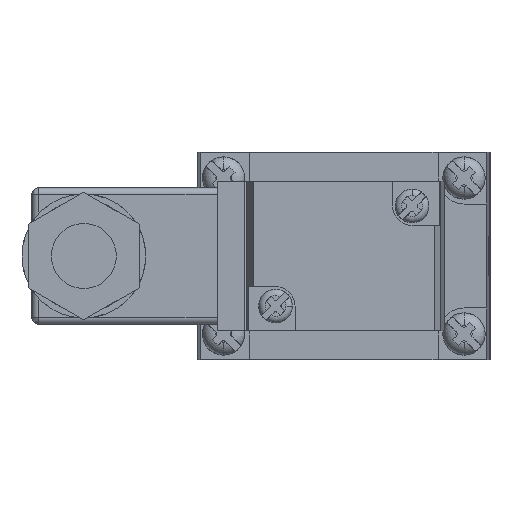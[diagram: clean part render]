
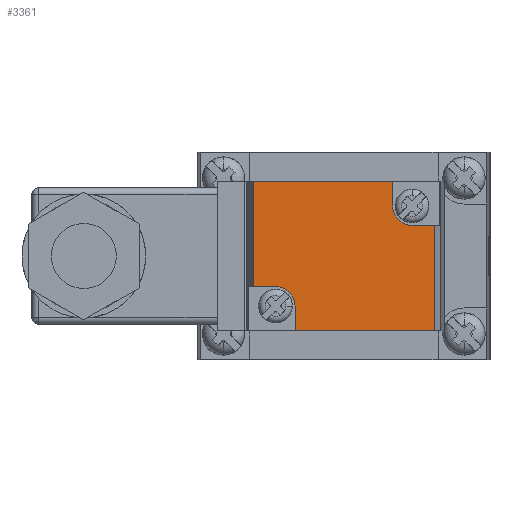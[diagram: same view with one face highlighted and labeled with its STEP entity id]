
A CAD part, left-side view. The second image highlights one B-rep face of the part: STEP entity #3361.
In plain terms, the highlighted planar face has unit normal (-1, 0, 0).
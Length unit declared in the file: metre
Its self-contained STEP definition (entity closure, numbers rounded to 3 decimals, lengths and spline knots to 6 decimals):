
#196 = CARTESIAN_POINT ( 'NONE',  ( -0.1123, 0.012, 0.0077 ) ) ;
#236 = CARTESIAN_POINT ( 'NONE',  ( -0.1123, 0.033, -0.0077 ) ) ;
#923 = VERTEX_POINT ( 'NONE', #996 ) ;
#950 = CARTESIAN_POINT ( 'NONE',  ( -0.1123, 0.022499, -0.0115 ) ) ;
#996 = CARTESIAN_POINT ( 'NONE',  ( -0.1123, 0.008598, -0.0115 ) ) ;
#1336 = EDGE_CURVE ( 'NONE', #9029, #6498, #3055, .T. ) ;
#2570 = CARTESIAN_POINT ( 'NONE',  ( -0.1123, 0.008598, 0.0115 ) ) ;
#2625 = DIRECTION ( 'NONE',  ( 0., -1., 0. ) ) ;
#2661 = DIRECTION ( 'NONE',  ( 0., -1., 0. ) ) ;
#2884 = CARTESIAN_POINT ( 'NONE',  ( -0.1123, 0.03, 0. ) ) ;
#3055 = LINE ( 'NONE', #2884, #27784 ) ;
#3164 = CARTESIAN_POINT ( 'NONE',  ( -0.1123, 0.015, 0.0096 ) ) ;
#3361 = ADVANCED_FACE ( 'NONE', ( #19429 ), #16901, .T. ) ;
#3374 = DIRECTION ( 'NONE',  ( 0., -1., 0. ) ) ;
#3589 = VERTEX_POINT ( 'NONE', #27375 ) ;
#4542 = EDGE_LOOP ( 'NONE', ( #12783, #6746, #20196, #26190, #30550, #18206, #21886, #26415, #22876, #20168 ) ) ;
#4988 = DIRECTION ( 'NONE',  ( -1., 0., 0. ) ) ;
#5126 = EDGE_CURVE ( 'NONE', #18503, #9029, #25742, .T. ) ;
#6147 = EDGE_CURVE ( 'NONE', #8559, #12912, #11790, .T. ) ;
#6498 = VERTEX_POINT ( 'NONE', #23651 ) ;
#6661 = CARTESIAN_POINT ( 'NONE',  ( -0.1123, 0.033, -0.0047 ) ) ;
#6746 = ORIENTED_EDGE ( 'NONE', *, *, #5126, .T. ) ;
#7495 = CARTESIAN_POINT ( 'NONE',  ( -0.1123, 0.0364, 0.0115 ) ) ;
#8114 = CARTESIAN_POINT ( 'NONE',  ( -0.1123, 0.008598, 0. ) ) ;
#8256 = CARTESIAN_POINT ( 'NONE',  ( -0.1123, 0.015, 0.0077 ) ) ;
#8494 = CARTESIAN_POINT ( 'NONE',  ( -0.1123, 0.022499, -0.0047 ) ) ;
#8559 = VERTEX_POINT ( 'NONE', #15012 ) ;
#8830 = VERTEX_POINT ( 'NONE', #25588 ) ;
#8875 = CARTESIAN_POINT ( 'NONE',  ( -0.1123, 0.022499, 0.0047 ) ) ;
#9029 = VERTEX_POINT ( 'NONE', #14481 ) ;
#9637 = EDGE_CURVE ( 'NONE', #8830, #12912, #21740, .T. ) ;
#9697 = LINE ( 'NONE', #26086, #18335 ) ;
#10162 = EDGE_CURVE ( 'NONE', #28785, #10693, #9697, .T. ) ;
#10524 = DIRECTION ( 'NONE',  ( 0., 0., 1. ) ) ;
#10693 = VERTEX_POINT ( 'NONE', #25817 ) ;
#10703 = AXIS2_PLACEMENT_3D ( 'NONE', #196, #16959, #2625 ) ;
#11790 = LINE ( 'NONE', #3164, #23032 ) ;
#12410 = EDGE_CURVE ( 'NONE', #10693, #18503, #25353, .T. ) ;
#12603 = VECTOR ( 'NONE', #30096, 1. ) ;
#12769 = LINE ( 'NONE', #950, #24791 ) ;
#12783 = ORIENTED_EDGE ( 'NONE', *, *, #12410, .T. ) ;
#12912 = VERTEX_POINT ( 'NONE', #8256 ) ;
#14120 = DIRECTION ( 'NONE',  ( 0., 0., -1. ) ) ;
#14242 = DIRECTION ( 'NONE',  ( 0., -1., 0. ) ) ;
#14481 = CARTESIAN_POINT ( 'NONE',  ( -0.1123, 0.03, -0.0077 ) ) ;
#14526 = VECTOR ( 'NONE', #14242, 1. ) ;
#15012 = CARTESIAN_POINT ( 'NONE',  ( -0.1123, 0.015, 0.0115 ) ) ;
#15268 = LINE ( 'NONE', #31010, #14526 ) ;
#15390 = EDGE_CURVE ( 'NONE', #28785, #8559, #15268, .T. ) ;
#15744 = EDGE_CURVE ( 'NONE', #923, #3589, #26897, .T. ) ;
#16901 = PLANE ( 'NONE',  #20219 ) ;
#16959 = DIRECTION ( 'NONE',  ( 1., 0., 0. ) ) ;
#16999 = DIRECTION ( 'NONE',  ( 1., 0., 0. ) ) ;
#17821 = VECTOR ( 'NONE', #23228, 1. ) ;
#18206 = ORIENTED_EDGE ( 'NONE', *, *, #21013, .T. ) ;
#18335 = VECTOR ( 'NONE', #14120, 1. ) ;
#18503 = VERTEX_POINT ( 'NONE', #6661 ) ;
#19429 = FACE_OUTER_BOUND ( 'NONE', #4542, .T. ) ;
#19862 = AXIS2_PLACEMENT_3D ( 'NONE', #236, #16999, #2661 ) ;
#20168 = ORIENTED_EDGE ( 'NONE', *, *, #10162, .T. ) ;
#20196 = ORIENTED_EDGE ( 'NONE', *, *, #1336, .T. ) ;
#20219 = AXIS2_PLACEMENT_3D ( 'NONE', #2570, #4988, #21735 ) ;
#21013 = EDGE_CURVE ( 'NONE', #3589, #8830, #24209, .T. ) ;
#21735 = DIRECTION ( 'NONE',  ( 0., 1., 0. ) ) ;
#21740 = CIRCLE ( 'NONE', #10703, 0.003 ) ;
#21886 = ORIENTED_EDGE ( 'NONE', *, *, #9637, .T. ) ;
#22876 = ORIENTED_EDGE ( 'NONE', *, *, #15390, .F. ) ;
#23032 = VECTOR ( 'NONE', #27150, 1. ) ;
#23228 = DIRECTION ( 'NONE',  ( 0., 1., 0. ) ) ;
#23651 = CARTESIAN_POINT ( 'NONE',  ( -0.1123, 0.03, -0.0115 ) ) ;
#24209 = LINE ( 'NONE', #8875, #17821 ) ;
#24560 = DIRECTION ( 'NONE',  ( 0., 0., -1. ) ) ;
#24791 = VECTOR ( 'NONE', #3374, 1. ) ;
#24919 = EDGE_CURVE ( 'NONE', #6498, #923, #12769, .T. ) ;
#25353 = LINE ( 'NONE', #8494, #12603 ) ;
#25588 = CARTESIAN_POINT ( 'NONE',  ( -0.1123, 0.012, 0.0047 ) ) ;
#25742 = CIRCLE ( 'NONE', #19862, 0.003 ) ;
#25817 = CARTESIAN_POINT ( 'NONE',  ( -0.1123, 0.0364, -0.0047 ) ) ;
#26086 = CARTESIAN_POINT ( 'NONE',  ( -0.1123, 0.0364, 0. ) ) ;
#26153 = VECTOR ( 'NONE', #10524, 1. ) ;
#26190 = ORIENTED_EDGE ( 'NONE', *, *, #24919, .T. ) ;
#26415 = ORIENTED_EDGE ( 'NONE', *, *, #6147, .F. ) ;
#26897 = LINE ( 'NONE', #8114, #26153 ) ;
#27150 = DIRECTION ( 'NONE',  ( 0., 0., -1. ) ) ;
#27375 = CARTESIAN_POINT ( 'NONE',  ( -0.1123, 0.008598, 0.0047 ) ) ;
#27784 = VECTOR ( 'NONE', #24560, 1. ) ;
#28785 = VERTEX_POINT ( 'NONE', #7495 ) ;
#30096 = DIRECTION ( 'NONE',  ( 0., -1., 0. ) ) ;
#30550 = ORIENTED_EDGE ( 'NONE', *, *, #15744, .T. ) ;
#31010 = CARTESIAN_POINT ( 'NONE',  ( -0.1123, 0.0225, 0.0115 ) ) ;
